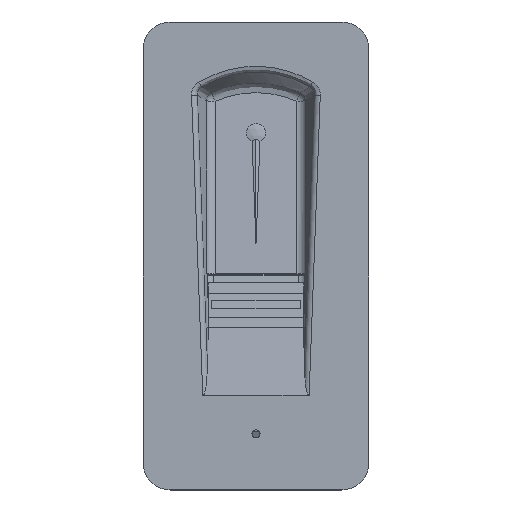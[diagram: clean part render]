
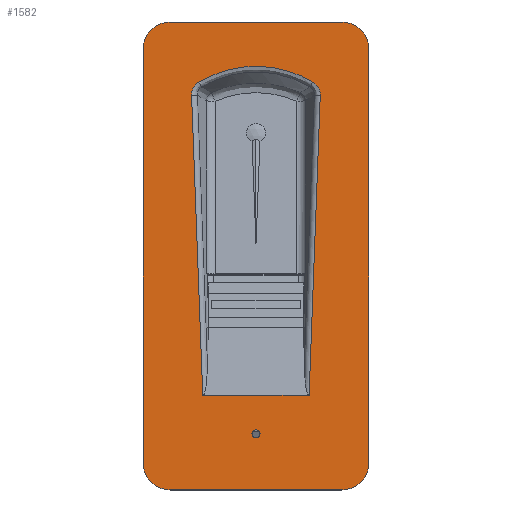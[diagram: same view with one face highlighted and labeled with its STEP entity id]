
A CAD part, top view. The second image highlights one B-rep face of the part: STEP entity #1582.
In plain terms, the highlighted planar face has unit normal (0, 0, 1).
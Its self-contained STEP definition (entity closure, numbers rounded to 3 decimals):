
#1582 = ADVANCED_FACE( '', ( #3693, #3694, #3695 ), #3696, .T. );
#3693 = FACE_BOUND( '', #6589, .T. );
#3694 = FACE_OUTER_BOUND( '', #6590, .T. );
#3695 = FACE_BOUND( '', #6591, .T. );
#3696 = PLANE( '', #6592 );
#6589 = EDGE_LOOP( '', ( #11476, #11477, #11478, #11479, #11480, #11481 ) );
#6590 = EDGE_LOOP( '', ( #11482, #11483, #11484, #11485, #11486, #11487, #11488, #11489 ) );
#6591 = EDGE_LOOP( '', ( #11490 ) );
#6592 = AXIS2_PLACEMENT_3D( '', #11491, #11492, #11493 );
#11476 = ORIENTED_EDGE( '', *, *, #16891, .T. );
#11477 = ORIENTED_EDGE( '', *, *, #18492, .T. );
#11478 = ORIENTED_EDGE( '', *, *, #18493, .T. );
#11479 = ORIENTED_EDGE( '', *, *, #17857, .T. );
#11480 = ORIENTED_EDGE( '', *, *, #18494, .T. );
#11481 = ORIENTED_EDGE( '', *, *, #17878, .T. );
#11482 = ORIENTED_EDGE( '', *, *, #18495, .T. );
#11483 = ORIENTED_EDGE( '', *, *, #18496, .T. );
#11484 = ORIENTED_EDGE( '', *, *, #18497, .T. );
#11485 = ORIENTED_EDGE( '', *, *, #18277, .T. );
#11486 = ORIENTED_EDGE( '', *, *, #18498, .T. );
#11487 = ORIENTED_EDGE( '', *, *, #18499, .T. );
#11488 = ORIENTED_EDGE( '', *, *, #18500, .T. );
#11489 = ORIENTED_EDGE( '', *, *, #18501, .T. );
#11490 = ORIENTED_EDGE( '', *, *, #18502, .F. );
#11491 = CARTESIAN_POINT( '', ( -11.15, -34.869, 1.755 ) );
#11492 = DIRECTION( '', ( 0., 0., 1. ) );
#11493 = DIRECTION( '', ( -1., 0., 0. ) );
#16891 = EDGE_CURVE( '', #20119, #20117, #20120, .T. );
#17857 = EDGE_CURVE( '', #21790, #21794, #21796, .T. );
#17878 = EDGE_CURVE( '', #21827, #20119, #21828, .T. );
#18277 = EDGE_CURVE( '', #22460, #22458, #22461, .T. );
#18492 = EDGE_CURVE( '', #20117, #22791, #22792, .T. );
#18493 = EDGE_CURVE( '', #22791, #21790, #22793, .T. );
#18494 = EDGE_CURVE( '', #21794, #21827, #22794, .T. );
#18495 = EDGE_CURVE( '', #22795, #22796, #22797, .T. );
#18496 = EDGE_CURVE( '', #22796, #22798, #22799, .T. );
#18497 = EDGE_CURVE( '', #22798, #22460, #22800, .T. );
#18498 = EDGE_CURVE( '', #22458, #22801, #22802, .T. );
#18499 = EDGE_CURVE( '', #22801, #22803, #22804, .T. );
#18500 = EDGE_CURVE( '', #22803, #22805, #22806, .T. );
#18501 = EDGE_CURVE( '', #22805, #22795, #22807, .T. );
#18502 = EDGE_CURVE( '', #22808, #22808, #22809, .T. );
#20117 = VERTEX_POINT( '', #24876 );
#20119 = VERTEX_POINT( '', #24878 );
#20120 = LINE( '', #24879, #24880 );
#21790 = VERTEX_POINT( '', #29431 );
#21794 = VERTEX_POINT( '', #29465 );
#21796 = ELLIPSE( '', #29467, 15.472, 13.7 );
#21827 = VERTEX_POINT( '', #29512 );
#21828 = LINE( '', #29513, #29514 );
#22458 = VERTEX_POINT( '', #31789 );
#22460 = VERTEX_POINT( '', #31792 );
#22461 = CIRCLE( '', #31793, 3. );
#22791 = VERTEX_POINT( '', #32962 );
#22792 = LINE( '', #32963, #32964 );
#22793 = B_SPLINE_CURVE_WITH_KNOTS( '', 3, ( #32965, #32966, #32967, #32968, #32969, #32970, #32971, #32972, #32973, #32974 ), .UNSPECIFIED., .F., .F., ( 4, 2, 2, 2, 4 ), ( 0., 0.065, 0.371, 0.686, 1. ), .UNSPECIFIED. );
#22794 = B_SPLINE_CURVE_WITH_KNOTS( '', 3, ( #32975, #32976, #32977, #32978, #32979, #32980, #32981, #32982, #32983, #32984 ), .UNSPECIFIED., .F., .F., ( 4, 2, 2, 2, 4 ), ( 0., 0.064, 0.37, 0.685, 1. ), .UNSPECIFIED. );
#22795 = VERTEX_POINT( '', #32985 );
#22796 = VERTEX_POINT( '', #32986 );
#22797 = LINE( '', #32987, #32988 );
#22798 = VERTEX_POINT( '', #32989 );
#22799 = CIRCLE( '', #32990, 3. );
#22800 = LINE( '', #32991, #32992 );
#22801 = VERTEX_POINT( '', #32993 );
#22802 = LINE( '', #32994, #32995 );
#22803 = VERTEX_POINT( '', #32996 );
#22804 = CIRCLE( '', #32997, 3. );
#22805 = VERTEX_POINT( '', #32998 );
#22806 = LINE( '', #32999, #33000 );
#22807 = CIRCLE( '', #33001, 3. );
#22808 = VERTEX_POINT( '', #33002 );
#22809 = CIRCLE( '', #33003, 0.45 );
#24876 = CARTESIAN_POINT( '', ( -6.079, -19.896, 1.755 ) );
#24878 = CARTESIAN_POINT( '', ( 5.76, -19.896, 1.755 ) );
#24879 = CARTESIAN_POINT( '', ( 5.1, -19.896, 1.755 ) );
#24880 = VECTOR( '', #38729, 1000. );
#29431 = CARTESIAN_POINT( '', ( -6.518, 14.978, 1.755 ) );
#29465 = CARTESIAN_POINT( '', ( 6.197, 14.99, 1.755 ) );
#29467 = AXIS2_PLACEMENT_3D( '', #39787, #39788, #39789 );
#29512 = CARTESIAN_POINT( '', ( 7.002, 13.514, 1.755 ) );
#29513 = CARTESIAN_POINT( '', ( 5.759, -19.913, 1.755 ) );
#29514 = VECTOR( '', #39804, 1000. );
#31789 = CARTESIAN_POINT( '', ( 12.4, -27.419, 1.755 ) );
#31792 = CARTESIAN_POINT( '', ( 9.4, -30.419, 1.755 ) );
#31793 = AXIS2_PLACEMENT_3D( '', #40238, #40239, #40240 );
#32962 = CARTESIAN_POINT( '', ( -7.32, 13.503, 1.755 ) );
#32963 = CARTESIAN_POINT( '', ( -5.53, -34.66, 1.755 ) );
#32964 = VECTOR( '', #40490, 1000. );
#32965 = CARTESIAN_POINT( '', ( -7.32, 13.503, 1.755 ) );
#32966 = CARTESIAN_POINT( '', ( -7.322, 13.542, 1.755 ) );
#32967 = CARTESIAN_POINT( '', ( -7.322, 13.58, 1.755 ) );
#32968 = CARTESIAN_POINT( '', ( -7.316, 13.798, 1.755 ) );
#32969 = CARTESIAN_POINT( '', ( -7.281, 13.978, 1.755 ) );
#32970 = CARTESIAN_POINT( '', ( -7.154, 14.319, 1.755 ) );
#32971 = CARTESIAN_POINT( '', ( -7.059, 14.482, 1.755 ) );
#32972 = CARTESIAN_POINT( '', ( -6.821, 14.763, 1.755 ) );
#32973 = CARTESIAN_POINT( '', ( -6.676, 14.884, 1.755 ) );
#32974 = CARTESIAN_POINT( '', ( -6.518, 14.978, 1.755 ) );
#32975 = CARTESIAN_POINT( '', ( 6.197, 14.99, 1.755 ) );
#32976 = CARTESIAN_POINT( '', ( 6.229, 14.971, 1.755 ) );
#32977 = CARTESIAN_POINT( '', ( 6.261, 14.95, 1.755 ) );
#32978 = CARTESIAN_POINT( '', ( 6.441, 14.828, 1.755 ) );
#32979 = CARTESIAN_POINT( '', ( 6.574, 14.701, 1.755 ) );
#32980 = CARTESIAN_POINT( '', ( 6.792, 14.41, 1.755 ) );
#32981 = CARTESIAN_POINT( '', ( 6.878, 14.24, 1.755 ) );
#32982 = CARTESIAN_POINT( '', ( 6.985, 13.887, 1.755 ) );
#32983 = CARTESIAN_POINT( '', ( 7.009, 13.698, 1.755 ) );
#32984 = CARTESIAN_POINT( '', ( 7.002, 13.514, 1.755 ) );
#32985 = CARTESIAN_POINT( '', ( -12.7, 18.681, 1.755 ) );
#32986 = CARTESIAN_POINT( '', ( -12.7, -27.419, 1.755 ) );
#32987 = CARTESIAN_POINT( '', ( -12.7, 20.131, 1.755 ) );
#32988 = VECTOR( '', #40491, 1000. );
#32989 = CARTESIAN_POINT( '', ( -9.7, -30.419, 1.755 ) );
#32990 = AXIS2_PLACEMENT_3D( '', #40492, #40493, #40494 );
#32991 = CARTESIAN_POINT( '', ( -11.15, -30.419, 1.755 ) );
#32992 = VECTOR( '', #40495, 1000. );
#32993 = CARTESIAN_POINT( '', ( 12.4, 18.681, 1.755 ) );
#32994 = CARTESIAN_POINT( '', ( 12.4, -34.869, 1.755 ) );
#32995 = VECTOR( '', #40496, 1000. );
#32996 = CARTESIAN_POINT( '', ( 9.4, 21.681, 1.755 ) );
#32997 = AXIS2_PLACEMENT_3D( '', #40497, #40498, #40499 );
#32998 = CARTESIAN_POINT( '', ( -9.7, 21.681, 1.755 ) );
#32999 = CARTESIAN_POINT( '', ( 10.85, 21.681, 1.755 ) );
#33000 = VECTOR( '', #40500, 1000. );
#33001 = AXIS2_PLACEMENT_3D( '', #40501, #40502, #40503 );
#33002 = CARTESIAN_POINT( '', ( 0.3, -24.169, 1.755 ) );
#33003 = AXIS2_PLACEMENT_3D( '', #40504, #40505, #40506 );
#38729 = DIRECTION( '', ( -1., 0., 0. ) );
#39787 = CARTESIAN_POINT( '', ( -0.15, 1.278, 1.755 ) );
#39788 = DIRECTION( '', ( 0., 0., -1. ) );
#39789 = DIRECTION( '', ( 0., 1., 0. ) );
#39804 = DIRECTION( '', ( -0.037, -0.999, 0. ) );
#40238 = CARTESIAN_POINT( '', ( 9.4, -27.419, 1.755 ) );
#40239 = DIRECTION( '', ( 0., 0., 1. ) );
#40240 = DIRECTION( '', ( 1., 0., 0. ) );
#40490 = DIRECTION( '', ( -0.037, 0.999, 0. ) );
#40491 = DIRECTION( '', ( 0., -1., 0. ) );
#40492 = CARTESIAN_POINT( '', ( -9.7, -27.419, 1.755 ) );
#40493 = DIRECTION( '', ( 0., 0., 1. ) );
#40494 = DIRECTION( '', ( 1., 0., 0. ) );
#40495 = DIRECTION( '', ( 1., 0., 0. ) );
#40496 = DIRECTION( '', ( 0., 1., 0. ) );
#40497 = CARTESIAN_POINT( '', ( 9.4, 18.681, 1.755 ) );
#40498 = DIRECTION( '', ( 0., 0., 1. ) );
#40499 = DIRECTION( '', ( 1., 0., 0. ) );
#40500 = DIRECTION( '', ( -1., 0., 0. ) );
#40501 = CARTESIAN_POINT( '', ( -9.7, 18.681, 1.755 ) );
#40502 = DIRECTION( '', ( 0., 0., 1. ) );
#40503 = DIRECTION( '', ( 1., 0., 0. ) );
#40504 = CARTESIAN_POINT( '', ( -0.15, -24.169, 1.755 ) );
#40505 = DIRECTION( '', ( 0., 0., 1. ) );
#40506 = DIRECTION( '', ( 1., 0., 0. ) );
